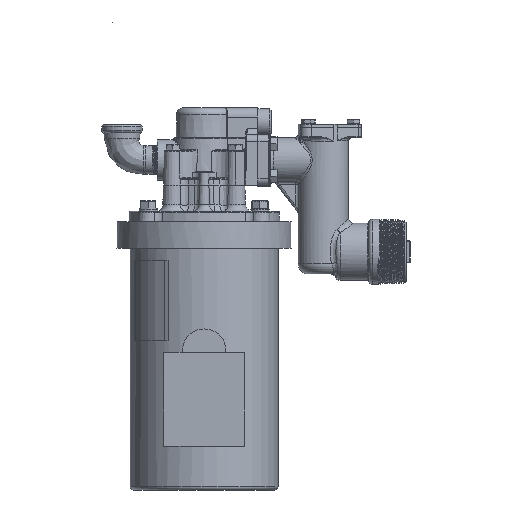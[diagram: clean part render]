
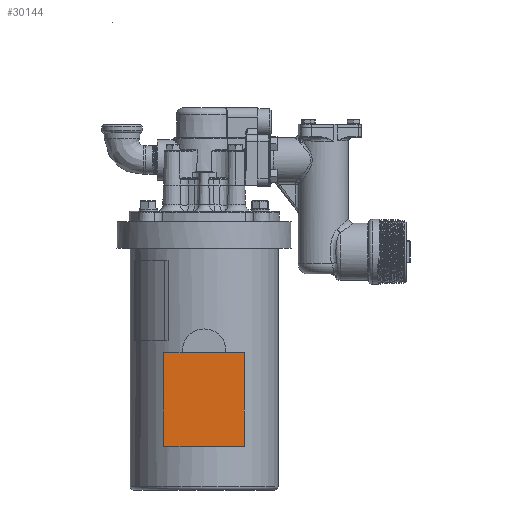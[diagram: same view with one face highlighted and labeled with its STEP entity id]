
A CAD part, left-side view. The second image highlights one B-rep face of the part: STEP entity #30144.
In plain terms, the highlighted planar face has unit normal (-1, 0, 0).
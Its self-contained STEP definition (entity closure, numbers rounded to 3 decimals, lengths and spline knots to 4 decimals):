
#3520=LINE('',#72240,#5397);
#3523=LINE('',#72245,#5400);
#3525=LINE('',#72249,#5402);
#3527=LINE('',#72252,#5404);
#5397=VECTOR('',#38580,0.3937);
#5400=VECTOR('',#38585,0.3937);
#5402=VECTOR('',#38589,0.3937);
#5404=VECTOR('',#38593,0.3937);
#7596=FACE_OUTER_BOUND('',#9395,.T.);
#9395=EDGE_LOOP('',(#24491,#24492,#24493,#24494));
#13010=VERTEX_POINT('',#72238);
#13011=VERTEX_POINT('',#72239);
#13012=VERTEX_POINT('',#72244);
#13013=VERTEX_POINT('',#72248);
#16972=EDGE_CURVE('',#13010,#13011,#3520,.T.);
#16975=EDGE_CURVE('',#13011,#13012,#3523,.T.);
#16977=EDGE_CURVE('',#13012,#13013,#3525,.T.);
#16979=EDGE_CURVE('',#13013,#13010,#3527,.T.);
#24491=ORIENTED_EDGE('',*,*,#16972,.F.);
#24492=ORIENTED_EDGE('',*,*,#16979,.F.);
#24493=ORIENTED_EDGE('',*,*,#16977,.F.);
#24494=ORIENTED_EDGE('',*,*,#16975,.F.);
#26912=PLANE('',#32642);
#30144=ADVANCED_FACE('',(#7596),#26912,.T.);
#32642=AXIS2_PLACEMENT_3D('',#72253,#38594,#38595);
#38580=DIRECTION('',(0.,0.,1.));
#38585=DIRECTION('',(0.,-1.,0.));
#38589=DIRECTION('',(0.,0.,-1.));
#38593=DIRECTION('',(0.,1.,0.));
#38594=DIRECTION('center_axis',(-1.,0.,0.));
#38595=DIRECTION('ref_axis',(0.,0.,
1.));
#72238=CARTESIAN_POINT('',(-4.895,1.5,1.625));
#72239=CARTESIAN_POINT('',(-4.895,1.5,5.125));
#72240=CARTESIAN_POINT('',(-4.895,1.5,5.125));
#72244=CARTESIAN_POINT('',(-4.895,-1.5,5.125));
#72245=CARTESIAN_POINT('',(-4.895,-1.5,5.125));
#72248=CARTESIAN_POINT('',(-4.895,-1.5,1.625));
#72249=CARTESIAN_POINT('',(-4.895,-1.5,1.625));
#72252=CARTESIAN_POINT('',(-4.895,1.5,1.625));
#72253=CARTESIAN_POINT('Origin',(-4.895,0.,3.375));
